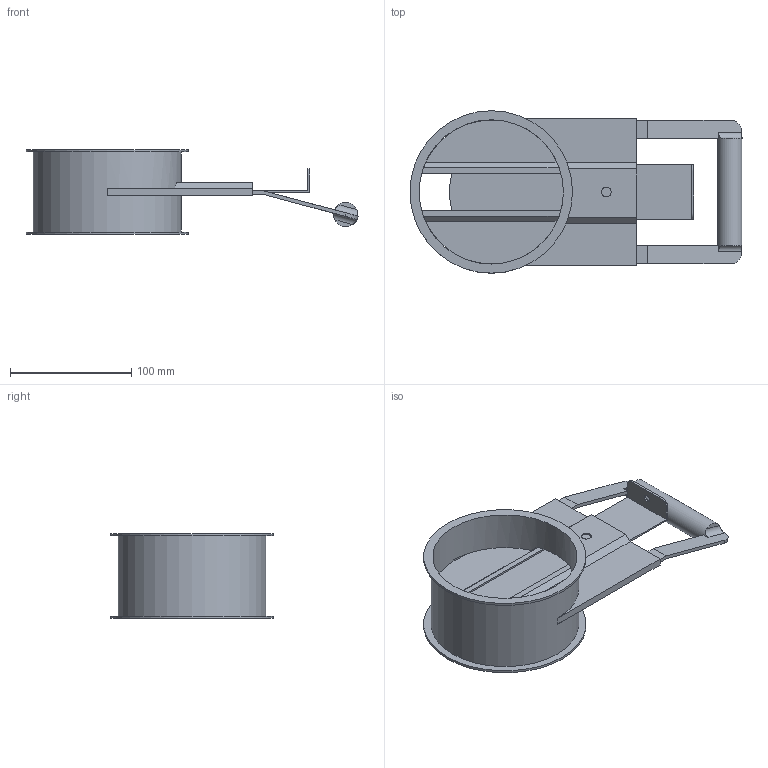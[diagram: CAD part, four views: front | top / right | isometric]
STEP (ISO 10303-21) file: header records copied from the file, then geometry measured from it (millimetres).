
FILE_DESCRIPTION((''),'2;1');
FILE_NAME('U:\Wolfgang\Marcel-3D\fertig\Kapitel 9\1221079.stp','2011-10-11T12:57:11',('iwienholt'),(''),'Autodesk Inventor 2010','Autodesk Inventor 2010','');
FILE_SCHEMA(('AUTOMOTIVE_DESIGN { 1 0 10303 214 1 1 1 1 }'));
Length unit declared in the file: millimetre
Products named in the file (4): 1221079; Dosierzunge DN120; Rohr mit Führung DN120; Schieberblech DN120
Assembly tree (3 placements, depth 2):
  1221079
    Dosierzunge DN120
    Rohr mit Führung DN120
    Schieberblech DN120
Bounding box: 273.82 x 134 x 70 mm (x, y, z)
Volume: 163845 mm3; surface area: 174626.5 mm2
Topology: 3 solids, 3 shells, 86 faces, 242 edges, 161 vertices
Faces by surface type: plane 59, cylinder 19, bspline 8
Full cylindrical faces by diameter (mm): 20 x1, 119 x1, 122 x1, 134 x2
Entity records: 2947 total; most frequent: CARTESIAN_POINT 634, ORIENTED_EDGE 458, DIRECTION 455, EDGE_CURVE 229, VECTOR 157, LINE 157, VERTEX_POINT 156, AXIS2_PLACEMENT_3D 149
